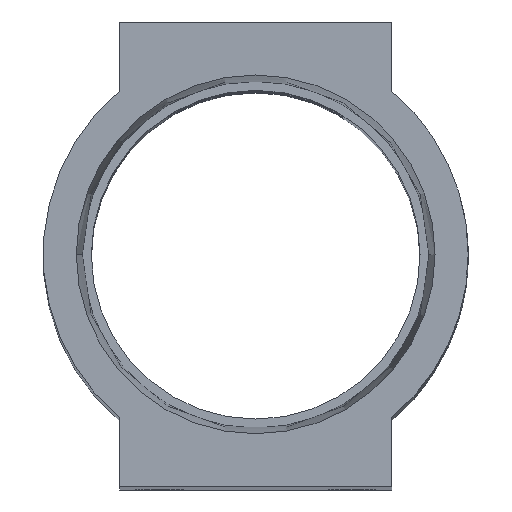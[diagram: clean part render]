
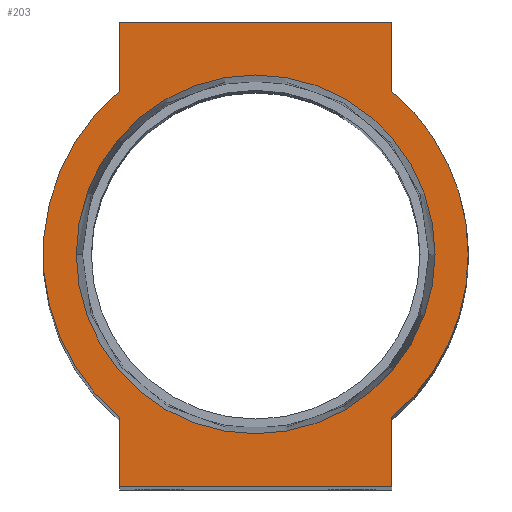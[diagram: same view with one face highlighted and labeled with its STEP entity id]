
A CAD part, top view. The second image highlights one B-rep face of the part: STEP entity #203.
In plain terms, the highlighted planar face has unit normal (0, 0, 1).
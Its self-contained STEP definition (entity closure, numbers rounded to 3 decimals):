
#139 = VECTOR ( 'NONE', #6062, 1000. ) ;
#203 = ADVANCED_FACE ( 'NONE', ( #9189, #6552 ), #10685, .T. ) ;
#236 = AXIS2_PLACEMENT_3D ( 'NONE', #7835, #1802, #9966 ) ;
#416 = CARTESIAN_POINT ( 'NONE',  ( 0., 0., 0. ) ) ;
#1085 = CARTESIAN_POINT ( 'NONE',  ( -12., -20.5, 0. ) ) ;
#1638 = ORIENTED_EDGE ( 'NONE', *, *, #7784, .T. ) ;
#1642 = DIRECTION ( 'NONE',  ( 0., -1., 0. ) ) ;
#1662 = CARTESIAN_POINT ( 'NONE',  ( 12., 20.5, 0. ) ) ;
#1672 = EDGE_CURVE ( 'NONE', #3487, #8390, #5241, .T. ) ;
#1718 = AXIS2_PLACEMENT_3D ( 'NONE', #416, #3961, #4768 ) ;
#1802 = DIRECTION ( 'NONE',  ( 0., 0., 1. ) ) ;
#1813 = CARTESIAN_POINT ( 'NONE',  ( 12., 14.407, 0. ) ) ;
#1915 = LINE ( 'NONE', #6266, #6142 ) ;
#2155 = LINE ( 'NONE', #8091, #9612 ) ;
#2167 = DIRECTION ( 'NONE',  ( 1., 0., 0. ) ) ;
#2287 = EDGE_LOOP ( 'NONE', ( #6158, #3299 ) ) ;
#2343 = CARTESIAN_POINT ( 'NONE',  ( 15.827, 0., 0. ) ) ;
#2723 = DIRECTION ( 'NONE',  ( 0., 0., 1. ) ) ;
#2912 = DIRECTION ( 'NONE',  ( 0., 1., 0. ) ) ;
#3078 = AXIS2_PLACEMENT_3D ( 'NONE', #11142, #3119, #10902 ) ;
#3119 = DIRECTION ( 'NONE',  ( 0., 0., 1. ) ) ;
#3185 = CIRCLE ( 'NONE', #236, 18.75 ) ;
#3216 = CARTESIAN_POINT ( 'NONE',  ( 12., -20.5, 0. ) ) ;
#3299 = ORIENTED_EDGE ( 'NONE', *, *, #11463, .F. ) ;
#3308 = EDGE_CURVE ( 'NONE', #9913, #4121, #3840, .T. ) ;
#3376 = CIRCLE ( 'NONE', #5588, 15.827 ) ;
#3487 = VERTEX_POINT ( 'NONE', #8547 ) ;
#3813 = CARTESIAN_POINT ( 'NONE',  ( 0., 0., 0. ) ) ;
#3840 = CIRCLE ( 'NONE', #3078, 15.827 ) ;
#3961 = DIRECTION ( 'NONE',  ( 0., 0., 1. ) ) ;
#3972 = CARTESIAN_POINT ( 'NONE',  ( -12., -14.407, 0. ) ) ;
#4098 = DIRECTION ( 'NONE',  ( 0., 0., 1. ) ) ;
#4121 = VERTEX_POINT ( 'NONE', #8488 ) ;
#4159 = CARTESIAN_POINT ( 'NONE',  ( 18.75, 0., 0. ) ) ;
#4304 = DIRECTION ( 'NONE',  ( 1., 0., 0. ) ) ;
#4475 = AXIS2_PLACEMENT_3D ( 'NONE', #3813, #10213, #2167 ) ;
#4768 = DIRECTION ( 'NONE',  ( 1., 0., 0. ) ) ;
#5117 = ORIENTED_EDGE ( 'NONE', *, *, #8289, .T. ) ;
#5241 = LINE ( 'NONE', #9671, #7263 ) ;
#5565 = VECTOR ( 'NONE', #7386, 1000. ) ;
#5588 = AXIS2_PLACEMENT_3D ( 'NONE', #7143, #2723, #6326 ) ;
#5656 = ORIENTED_EDGE ( 'NONE', *, *, #7222, .T. ) ;
#5752 = AXIS2_PLACEMENT_3D ( 'NONE', #6756, #4098, #10560 ) ;
#6062 = DIRECTION ( 'NONE',  ( 0., 1., 0. ) ) ;
#6142 = VECTOR ( 'NONE', #4304, 1000. ) ;
#6158 = ORIENTED_EDGE ( 'NONE', *, *, #3308, .F. ) ;
#6266 = CARTESIAN_POINT ( 'NONE',  ( -12., -20.5, 0. ) ) ;
#6326 = DIRECTION ( 'NONE',  ( 1., 0., 0. ) ) ;
#6552 = FACE_OUTER_BOUND ( 'NONE', #7098, .T. ) ;
#6755 = VERTEX_POINT ( 'NONE', #9112 ) ;
#6756 = CARTESIAN_POINT ( 'NONE',  ( 0., 0., 0. ) ) ;
#6953 = LINE ( 'NONE', #1662, #139 ) ;
#7098 = EDGE_LOOP ( 'NONE', ( #5656, #8742, #10119, #7312, #5117, #10308, #1638, #10047, #10565 ) ) ;
#7143 = CARTESIAN_POINT ( 'NONE',  ( 0., 0., 0. ) ) ;
#7222 = EDGE_CURVE ( 'NONE', #10460, #6755, #6953, .T. ) ;
#7263 = VECTOR ( 'NONE', #1642, 1000. ) ;
#7279 = LINE ( 'NONE', #8400, #5565 ) ;
#7312 = ORIENTED_EDGE ( 'NONE', *, *, #11139, .T. ) ;
#7386 = DIRECTION ( 'NONE',  ( -1., 0., 0. ) ) ;
#7784 = EDGE_CURVE ( 'NONE', #8432, #10426, #2155, .T. ) ;
#7835 = CARTESIAN_POINT ( 'NONE',  ( 0., 0., 0. ) ) ;
#8091 = CARTESIAN_POINT ( 'NONE',  ( 12., -20.5, 0. ) ) ;
#8289 = EDGE_CURVE ( 'NONE', #10544, #9995, #9210, .T. ) ;
#8390 = VERTEX_POINT ( 'NONE', #9103 ) ;
#8400 = CARTESIAN_POINT ( 'NONE',  ( -12., 20.5, 0. ) ) ;
#8420 = VERTEX_POINT ( 'NONE', #4159 ) ;
#8432 = VERTEX_POINT ( 'NONE', #3216 ) ;
#8488 = CARTESIAN_POINT ( 'NONE',  ( -15.827, 0., 0. ) ) ;
#8547 = CARTESIAN_POINT ( 'NONE',  ( -12., 20.5, 0. ) ) ;
#8578 = CARTESIAN_POINT ( 'NONE',  ( 12., -14.407, 0. ) ) ;
#8709 = VECTOR ( 'NONE', #10941, 1000. ) ;
#8742 = ORIENTED_EDGE ( 'NONE', *, *, #10226, .T. ) ;
#9042 = CARTESIAN_POINT ( 'NONE',  ( -12., -20.5, 0. ) ) ;
#9103 = CARTESIAN_POINT ( 'NONE',  ( -12., 14.407, 0. ) ) ;
#9112 = CARTESIAN_POINT ( 'NONE',  ( 12., 20.5, 0. ) ) ;
#9189 = FACE_BOUND ( 'NONE', #2287, .T. ) ;
#9210 = LINE ( 'NONE', #1085, #8709 ) ;
#9314 = CIRCLE ( 'NONE', #5752, 18.75 ) ;
#9612 = VECTOR ( 'NONE', #2912, 1000. ) ;
#9671 = CARTESIAN_POINT ( 'NONE',  ( -12., 20.5, 0. ) ) ;
#9913 = VERTEX_POINT ( 'NONE', #2343 ) ;
#9966 = DIRECTION ( 'NONE',  ( 1., 0., 0. ) ) ;
#9995 = VERTEX_POINT ( 'NONE', #9042 ) ;
#10047 = ORIENTED_EDGE ( 'NONE', *, *, #10203, .T. ) ;
#10119 = ORIENTED_EDGE ( 'NONE', *, *, #1672, .T. ) ;
#10203 = EDGE_CURVE ( 'NONE', #10426, #8420, #11395, .T. ) ;
#10213 = DIRECTION ( 'NONE',  ( 0., 0., 1. ) ) ;
#10226 = EDGE_CURVE ( 'NONE', #6755, #3487, #7279, .T. ) ;
#10308 = ORIENTED_EDGE ( 'NONE', *, *, #11478, .T. ) ;
#10426 = VERTEX_POINT ( 'NONE', #8578 ) ;
#10460 = VERTEX_POINT ( 'NONE', #1813 ) ;
#10544 = VERTEX_POINT ( 'NONE', #3972 ) ;
#10560 = DIRECTION ( 'NONE',  ( 1., 0., 0. ) ) ;
#10565 = ORIENTED_EDGE ( 'NONE', *, *, #11487, .T. ) ;
#10685 = PLANE ( 'NONE',  #1718 ) ;
#10902 = DIRECTION ( 'NONE',  ( 1., 0., 0. ) ) ;
#10941 = DIRECTION ( 'NONE',  ( 0., -1., 0. ) ) ;
#11139 = EDGE_CURVE ( 'NONE', #8390, #10544, #9314, .T. ) ;
#11142 = CARTESIAN_POINT ( 'NONE',  ( 0., 0., 0. ) ) ;
#11395 = CIRCLE ( 'NONE', #4475, 18.75 ) ;
#11463 = EDGE_CURVE ( 'NONE', #4121, #9913, #3376, .T. ) ;
#11478 = EDGE_CURVE ( 'NONE', #9995, #8432, #1915, .T. ) ;
#11487 = EDGE_CURVE ( 'NONE', #8420, #10460, #3185, .T. ) ;
